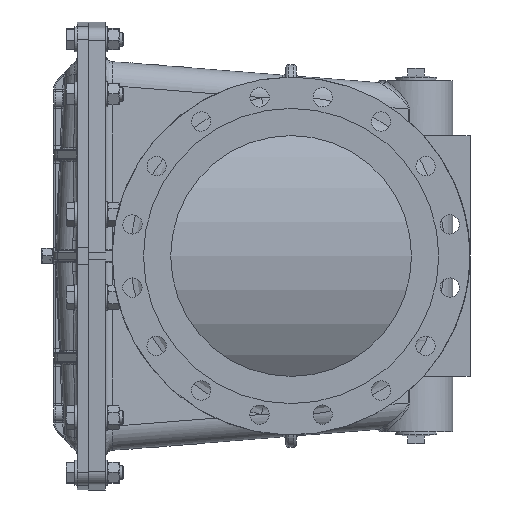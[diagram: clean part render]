
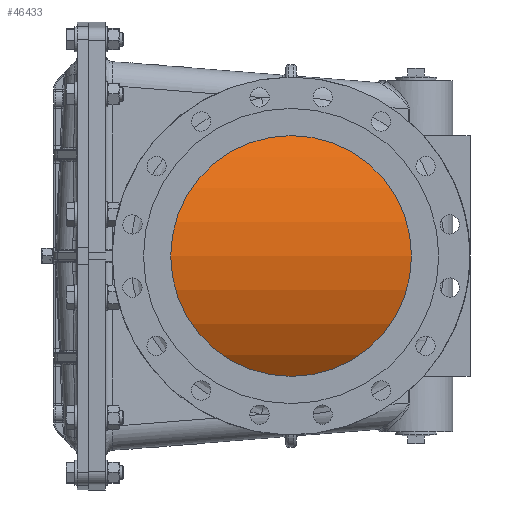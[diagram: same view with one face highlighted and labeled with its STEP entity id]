
A CAD part, left-side view. The second image highlights one B-rep face of the part: STEP entity #46433.
In plain terms, the highlighted cylindrical face has radius 289 mm (diameter 578 mm), a partial arc.
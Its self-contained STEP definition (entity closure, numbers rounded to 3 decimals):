
#4296=LINE('',#93020,#7736);
#4297=LINE('',#93022,#7737);
#7736=VECTOR('',#60151,10.);
#7737=VECTOR('',#60154,10.);
#9886=CYLINDRICAL_SURFACE('',#50562,289.);
#11989=FACE_OUTER_BOUND('',#15010,.T.);
#15010=EDGE_LOOP('',(#39764,#39765,#39766,#39767));
#18565=CIRCLE('',#50556,289.);
#18566=CIRCLE('',#50559,289.);
#21994=VERTEX_POINT('',#92990);
#21998=VERTEX_POINT('',#92999);
#22001=VERTEX_POINT('',#93009);
#22002=VERTEX_POINT('',#93011);
#28105=EDGE_CURVE('',#21994,#21998,#18565,.T.);
#28110=EDGE_CURVE('',#22002,#22001,#18566,.T.);
#28115=EDGE_CURVE('',#21998,#22002,#4296,.T.);
#28116=EDGE_CURVE('',#21994,#22001,#4297,.T.);
#39764=ORIENTED_EDGE('',*,*,#28105,.T.);
#39765=ORIENTED_EDGE('',*,*,#28115,.T.);
#39766=ORIENTED_EDGE('',*,*,#28110,.T.);
#39767=ORIENTED_EDGE('',*,*,#28116,.F.);
#46433=ADVANCED_FACE('',(#11989),#9886,.T.);
#50556=AXIS2_PLACEMENT_3D('',#93001,#60132,#60133);
#50559=AXIS2_PLACEMENT_3D('',#93012,#60142,#60143);
#50562=AXIS2_PLACEMENT_3D('',#93021,#60152,#60153);
#60132=DIRECTION('center_axis',(0.,0.,
1.));
#60133=DIRECTION('ref_axis',(0.64,0.768,0.));
#60142=DIRECTION('center_axis',(0.,0.,-1.));
#60143=DIRECTION('ref_axis',(0.64,0.768,0.));
#60151=DIRECTION('',(0.,0.,1.));
#60152=DIRECTION('center_axis',(0.,0.,1.));
#60153=DIRECTION('ref_axis',(0.64,0.768,0.));
#60154=DIRECTION('',(0.,0.,1.));
#92990=CARTESIAN_POINT('',(185.032,3.,12.));
#92999=CARTESIAN_POINT('',(-185.032,3.,12.));
#93001=CARTESIAN_POINT('Origin',(0.,-219.,12.));
#93009=CARTESIAN_POINT('',(185.032,3.,510.));
#93011=CARTESIAN_POINT('',(-185.032,3.,510.));
#93012=CARTESIAN_POINT('Origin',(0.,-219.,510.));
#93020=CARTESIAN_POINT('',(-185.032,3.,0.));
#93021=CARTESIAN_POINT('Origin',(0.,-219.,0.));
#93022=CARTESIAN_POINT('',(185.032,3.,0.));
